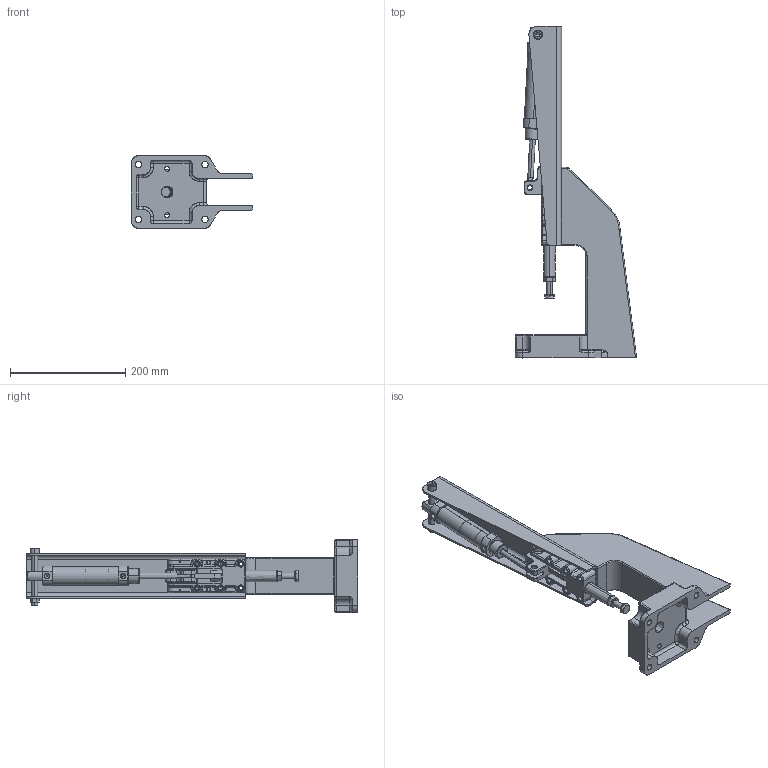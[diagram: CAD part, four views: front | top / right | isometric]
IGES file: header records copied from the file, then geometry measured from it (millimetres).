
Start section: SolidWorks IGES file using analytic representation for surfaces
Global section: file name: D:\GH Files\GH-SW-FILES\GH-A\31200A\31200PRA\GH-31200PRA.IGS; native system: SolidWorks 2006 by SolidWorks Corporation; preprocessor: SolidWorks 2006 by SolidWorks Corporation; author: Administrator; date: 060829.142705; units: millimetre
Bounding box: 210 x 575 x 126 mm (x, y, z)
Surface area: 435816.7 mm2 (no closed solid volume)
Topology: 0 solids, 0 shells, 1639 faces, 15990 edges, 15953 vertices
Faces by surface type: bspline 868, revolution 771
